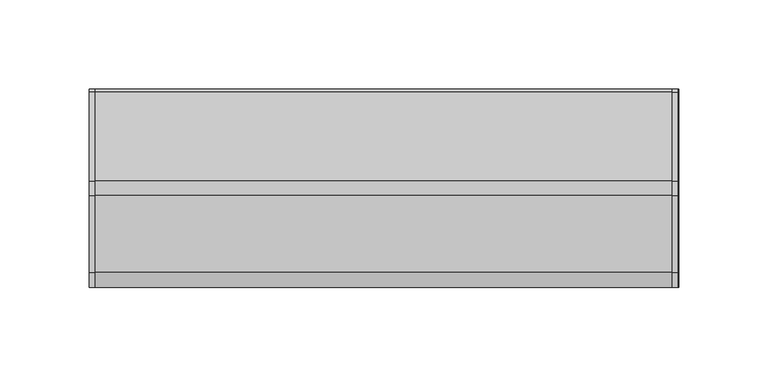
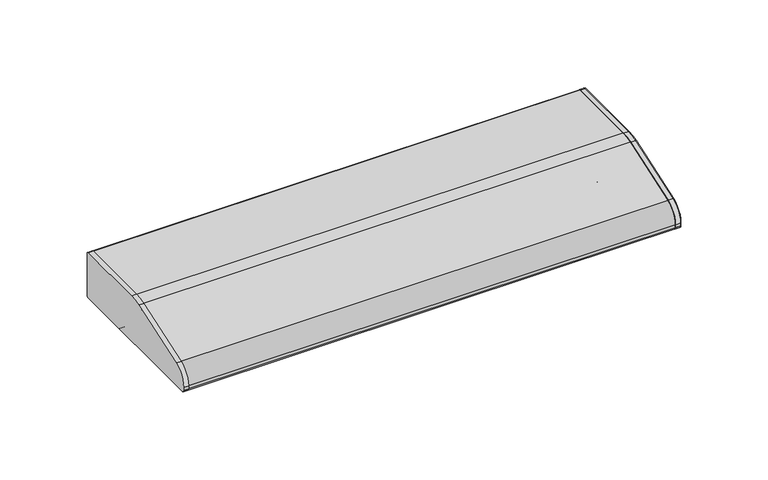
"""IFC4 building model written with IfcOpenShell, lengths in millimetres: light fixture geometry, HermanMiller_SupplementalProducts_G6136_UtilityTaskLight : AO Etho Canvas 24W."""

from ifc_helpers import new_model, si_unit, point, frame, frame_2d, origin, place, context, project, spatial, polyline, circle_curve, trimmed, segment, composite_curve, outline, extrude, source, transform, mapped, element, save


def light_fixture_05727ef9(model_context):
    return source(origin(), model_context, "Body", "SweptSolid", [
        extrude(outline(composite_curve([segment(polyline([(53.975, 1282.7), (-53.975, 1282.7)]), True, "CONTINUOUS"), segment(trimmed(circle_curve(frame_2d((-53.975, 1284.2875)), 1.5875), [point((-53.975, 1282.7))], [point((-55.5625, 1284.2875))], False, "CARTESIAN"), True, "CONTINUOUS"), segment(polyline([(-55.5625, 1284.2875), (-55.5625, 1286.3285714)]), True, "CONTINUOUS"), segment(trimmed(circle_curve(frame_2d((-42.8625, 1286.3285714)), 12.7), [point((-55.5625, 1286.3285714))], [point((-46.9814189, 1298.3420849))], False, "CARTESIAN"), True, "CONTINUOUS"), segment(polyline([(-46.9814189, 1298.3420849), (-4.0045045, 1313.077027)]), True, "CONTINUOUS"), segment(trimmed(circle_curve(frame_2d((4.2333333, 1289.05)), 25.4), [point((-4.0045045, 1313.077027))], [point((4.2333333, 1314.45))], False, "CARTESIAN"), True, "CONTINUOUS"), segment(polyline([(4.2333333, 1314.45), (53.975, 1314.45)]), True, "CONTINUOUS"), segment(trimmed(circle_curve(frame_2d((53.975, 1312.8625)), 1.5875), [point((53.975, 1314.45))], [point((55.5625, 1312.8625))], False, "CARTESIAN"), True, "CONTINUOUS"), segment(polyline([(55.5625, 1312.8625), (55.5625, 1284.2875)]), True, "CONTINUOUS"), segment(trimmed(circle_curve(frame_2d((53.975, 1284.2875)), 1.5875), [point((55.5625, 1284.2875))], [point((53.975, 1282.7))], False, "CARTESIAN"), True, "CONTINUOUS")], self_intersect=False)), frame((161.544, 0.0, 0.0), z_axis=(1.0, 0.0, 0.0), x_axis=(0.0, 1.0, 0.0)), (0.0, 0.0, 1.0), 3.175),
        extrude(outline(composite_curve([segment(trimmed(circle_curve(frame_2d((53.975, 1312.8625)), 1.5875), [point((53.975, 1314.45))], [point((55.5625, 1312.8625))], False, "CARTESIAN"), True, "CONTINUOUS"), segment(polyline([(55.5625, 1312.8625), (55.5625, 1284.2875)]), True, "CONTINUOUS"), segment(trimmed(circle_curve(frame_2d((53.975, 1284.2875)), 1.5875), [point((55.5625, 1284.2875))], [point((53.975, 1282.7))], False, "CARTESIAN"), True, "CONTINUOUS"), segment(polyline([(53.975, 1282.7), (-53.975, 1282.7)]), True, "CONTINUOUS"), segment(trimmed(circle_curve(frame_2d((-53.975, 1284.2875)), 1.5875), [point((-53.975, 1282.7))], [point((-55.5625, 1284.2875))], False, "CARTESIAN"), True, "CONTINUOUS"), segment(polyline([(-55.5625, 1284.2875), (-55.5625, 1286.3285714)]), True, "CONTINUOUS"), segment(trimmed(circle_curve(frame_2d((-42.8625, 1286.3285714)), 12.7), [point((-55.5625, 1286.3285714))], [point((-46.9814189, 1298.3420849))], False, "CARTESIAN"), True, "CONTINUOUS"), segment(polyline([(-46.9814189, 1298.3420849), (-4.0045045, 1313.077027)]), True, "CONTINUOUS"), segment(trimmed(circle_curve(frame_2d((4.2333333, 1289.05)), 25.4), [point((-4.0045045, 1313.077027))], [point((4.2333333, 1314.45))], False, "CARTESIAN"), True, "CONTINUOUS"), segment(polyline([(4.2333333, 1314.45), (53.975, 1314.45)]), True, "CONTINUOUS")], self_intersect=False)), frame((-164.719, 0.0, 0.0), z_axis=(1.0, 0.0, 0.0), x_axis=(0.0, 1.0, 0.0)), (0.0, 0.0, 1.0), 3.175),
        extrude(outline(composite_curve([segment(polyline([(55.5625, 1312.8625), (55.5625, 1284.2875)]), True, "CONTINUOUS"), segment(trimmed(circle_curve(frame_2d((53.975, 1284.2875)), 1.5875), [point((55.5625, 1284.2875))], [point((53.975, 1282.7))], False, "CARTESIAN"), True, "CONTINUOUS"), segment(polyline([(53.975, 1282.7), (19.05, 1282.7)]), True, "CONTINUOUS"), segment(trimmed(circle_curve(frame_2d((19.05, 1284.2875)), 1.5875), [point((19.05, 1282.7))], [point((17.4625, 1284.2875))], False, "CARTESIAN"), True, "CONTINUOUS"), segment(polyline([(17.4625, 1284.2875), (17.4625, 1312.8625), (4.4979167, 1312.8625)]), True, "CONTINUOUS"), segment(trimmed(circle_curve(frame_2d((4.4979167, 1287.4625)), 25.4), [point((4.4979167, 1312.8625))], [point((-3.7399212, 1311.489527))], True, "CARTESIAN"), True, "CONTINUOUS"), segment(polyline([(-3.7399212, 1311.489527), (-37.4564189, 1299.9295849)]), True, "CONTINUOUS"), segment(trimmed(circle_curve(frame_2d((-33.3375, 1287.9160714)), 12.7), [point((-37.4564189, 1299.9295849))], [point((-46.0375, 1287.9160714))], True, "CARTESIAN"), True, "CONTINUOUS"), segment(polyline([(-46.0375, 1287.9160714), (-46.0375, 1284.2875)]), True, "CONTINUOUS"), segment(trimmed(circle_curve(frame_2d((-47.625, 1284.2875)), 1.5875), [point((-46.0375, 1284.2875))], [point((-47.625, 1282.7))], False, "CARTESIAN"), True, "CONTINUOUS"), segment(polyline([(-47.625, 1282.7), (-53.975, 1282.7)]), True, "CONTINUOUS"), segment(trimmed(circle_curve(frame_2d((-53.975, 1284.2875)), 1.5875), [point((-53.975, 1282.7))], [point((-55.5625, 1284.2875))], False, "CARTESIAN"), True, "CONTINUOUS"), segment(polyline([(-55.5625, 1284.2875), (-55.5625, 1286.3285714)]), True, "CONTINUOUS"), segment(trimmed(circle_curve(frame_2d((-42.8625, 1286.3285714)), 12.7), [point((-55.5625, 1286.3285714))], [point((-46.9814189, 1298.3420849))], False, "CARTESIAN"), True, "CONTINUOUS"), segment(polyline([(-46.9814189, 1298.3420849), (-4.0045045, 1313.077027)]), True, "CONTINUOUS"), segment(trimmed(circle_curve(frame_2d((4.2333333, 1289.05)), 25.4), [point((-4.0045045, 1313.077027))], [point((4.2333333, 1314.45))], False, "CARTESIAN"), True, "CONTINUOUS"), segment(polyline([(4.2333333, 1314.45), (53.975, 1314.45)]), True, "CONTINUOUS"), segment(trimmed(circle_curve(frame_2d((53.975, 1312.8625)), 1.5875), [point((53.975, 1314.45))], [point((55.5625, 1312.8625))], False, "CARTESIAN"), True, "CONTINUOUS")], self_intersect=False)), frame((-164.719, 0.0, 0.0), z_axis=(1.0, 0.0, 0.0), x_axis=(0.0, 1.0, 0.0)), (0.0, 0.0, 1.0), 329.9040011),
        extrude(outline(composite_curve([segment(trimmed(circle_curve(frame_2d((1.5875, 1300.1625)), 9.525), [point((-7.9375, 1300.1625))], [point((11.1125, 1300.1625))], False, "CARTESIAN"), True, "CONTINUOUS"), segment(trimmed(circle_curve(frame_2d((1.5875, 1300.1625)), 9.525), [point((11.1125, 1300.1625))], [point((-7.9375, 1300.1625))], False, "CARTESIAN"), True, "CONTINUOUS")], self_intersect=False)), frame((139.319, 0.0, 0.0), z_axis=(1.0, 0.0, 0.0), x_axis=(0.0, 1.0, 0.0)), (0.0, 0.0, 1.0), 12.7),
        extrude(outline(composite_curve([segment(trimmed(circle_curve(frame_2d((1.5875, 1300.1625)), 9.525), [point((-7.9375, 1300.1625))], [point((11.1125, 1300.1625))], False, "CARTESIAN"), True, "CONTINUOUS"), segment(trimmed(circle_curve(frame_2d((1.5875, 1300.1625)), 9.525), [point((11.1125, 1300.1625))], [point((-7.9375, 1300.1625))], False, "CARTESIAN"), True, "CONTINUOUS")], self_intersect=False)), frame((-152.019, 0.0, 0.0), z_axis=(1.0, 0.0, 0.0), x_axis=(0.0, 1.0, 0.0)), (0.0, 0.0, 1.0), 12.7),
        extrude(outline(composite_curve([segment(trimmed(circle_curve(frame_2d((1.5875, 1300.1625)), 9.525), [point((-7.9375, 1300.1625))], [point((11.1125, 1300.1625))], False, "CARTESIAN"), True, "CONTINUOUS"), segment(trimmed(circle_curve(frame_2d((1.5875, 1300.1625)), 9.525), [point((11.1125, 1300.1625))], [point((-7.9375, 1300.1625))], False, "CARTESIAN"), True, "CONTINUOUS")], self_intersect=False)), frame((-139.319, 0.0, 0.0), z_axis=(1.0, 0.0, 0.0), x_axis=(0.0, 1.0, 0.0)), (0.0, 0.0, 1.0), 278.638),
        extrude(outline(composite_curve([segment(polyline([(17.4625, 1285.875), (-46.0375, 1285.875), (-46.0375, 1287.9160714)]), True, "CONTINUOUS"), segment(trimmed(circle_curve(frame_2d((-33.3375, 1287.9160714)), 12.7), [point((-46.0375, 1287.9160714))], [point((-37.4564189, 1299.9295849))], False, "CARTESIAN"), True, "CONTINUOUS"), segment(polyline([(-37.4564189, 1299.9295849), (-3.7399212, 1311.489527)]), True, "CONTINUOUS"), segment(trimmed(circle_curve(frame_2d((4.4979167, 1287.4625)), 25.4), [point((-3.7399212, 1311.489527))], [point((4.4979167, 1312.8625))], False, "CARTESIAN"), True, "CONTINUOUS"), segment(polyline([(4.4979167, 1312.8625), (17.4625, 1312.8625), (17.4625, 1285.875)]), True, "CONTINUOUS")], self_intersect=False)), frame((152.019, 0.0, 0.0), z_axis=(1.0, 0.0, 0.0), x_axis=(0.0, 1.0, 0.0)), (0.0, 0.0, 1.0), 9.525),
        extrude(outline(composite_curve([segment(polyline([(17.4625, 1285.875), (-46.0375, 1285.875), (-46.0375, 1287.9160714)]), True, "CONTINUOUS"), segment(trimmed(circle_curve(frame_2d((-33.3375, 1287.9160714)), 12.7), [point((-46.0375, 1287.9160714))], [point((-37.4564189, 1299.9295849))], False, "CARTESIAN"), True, "CONTINUOUS"), segment(polyline([(-37.4564189, 1299.9295849), (-3.7399212, 1311.489527)]), True, "CONTINUOUS"), segment(trimmed(circle_curve(frame_2d((4.4979167, 1287.4625)), 25.4), [point((-3.7399212, 1311.489527))], [point((4.4979167, 1312.8625))], False, "CARTESIAN"), True, "CONTINUOUS"), segment(polyline([(4.4979167, 1312.8625), (17.4625, 1312.8625), (17.4625, 1285.875)]), True, "CONTINUOUS")], self_intersect=False)), frame((-161.544, 0.0, 0.0), z_axis=(1.0, 0.0, 0.0), x_axis=(0.0, 1.0, 0.0)), (0.0, 0.0, 1.0), 9.525),
    ])


if __name__ == "__main__":
    model = new_model("IFC4")
    model_context = context("Model", 3, world=origin())
    ifc_project = project(units=[si_unit("LENGTHUNIT", "METRE", prefix="MILLI")], contexts=[model_context])
    site = spatial("IfcSite", under=ifc_project)
    building = spatial("IfcBuilding", under=site)
    placement = place(None, origin())
    light_fixture_shape = light_fixture_05727ef9(model_context)
    element("IfcLightFixture", 1, ObjectType="HermanMiller_SupplementalProducts_G6136_UtilityTaskLight : AO Etho Canvas 24W", at=placement, inside=building, context=model_context, shape_type="MappedRepresentation", body=[
        mapped(light_fixture_shape, transform((0.0, 0.0, 0.0), x_axis=(1.0, 0.0, 0.0), y_axis=(0.0, 1.0, 0.0), z_axis=(0.0, 0.0, 1.0))),
    ])
    save(model, "model.ifc")
